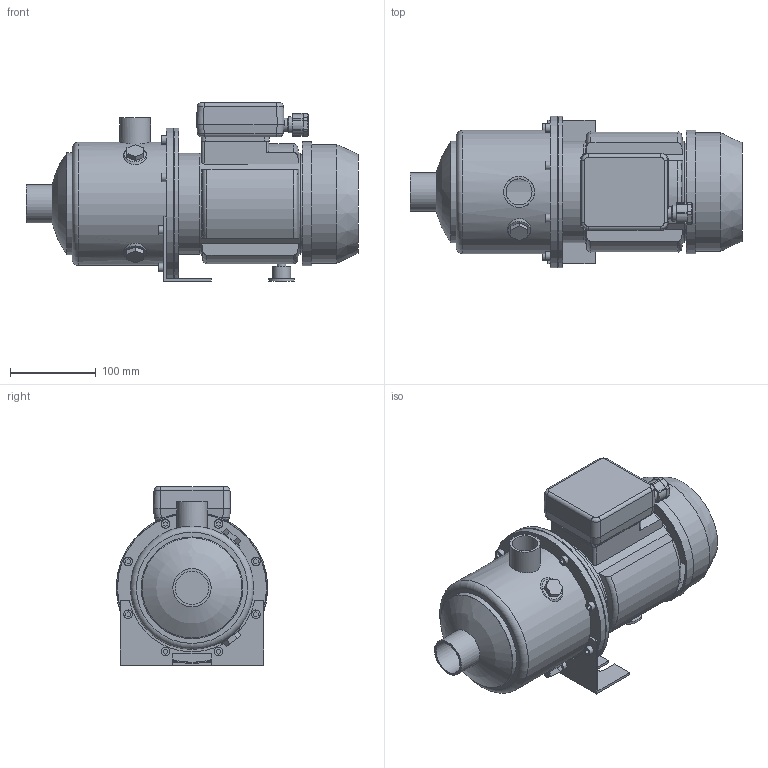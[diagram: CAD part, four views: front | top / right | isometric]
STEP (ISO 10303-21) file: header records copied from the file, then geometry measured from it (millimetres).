
FILE_DESCRIPTION(/* description */ ('Unknown'),/* implementation_level */ '2;1');
FILE_NAME(/* name */ 'MH 3 [4] T6 IE3',/* time_stamp */ '2026-07-10T15:09:30+02:00',/* author */ ('Unknown'),/* organization */ ('Unknown'),/* preprocessor_version */ 'ST-DEVELOPER v20',/* originating_system */ 'Solid Edge',/* authorisation */ 'Unknown');
FILE_SCHEMA (('AUTOMOTIVE_DESIGN {1 0 10303 214 3 1 1}'));
Length unit declared in the file: millimetre
Products named in the file (10): MH 3 [4] T6 IE3; Flangia motore Tonda M71; Corpo MH 3-5 [4]; Motore MEC 71 - T; carcassa MEC 71; Copriventola MEC 71; Basetta MEC 71 T; Ghiera PG13,5 cod. SAV.GHI.20; Piedino MEC 71 int.90; Staffa 3-5-9 int.90
Assembly tree (9 placements, depth 3):
  MH 3 [4] T6 IE3
    Flangia motore Tonda M71
    Corpo MH 3-5 [4]
    Motore MEC 71 - T
      carcassa MEC 71
      Copriventola MEC 71
      Basetta MEC 71 T
      Ghiera PG13,5 cod. SAV.GHI.20
    Piedino MEC 71 int.90
    Staffa 3-5-9 int.90
Bounding box: 386.6 x 176.5 x 207.5 mm (x, y, z)
Volume: 1785678.6 mm3; surface area: 499282.3 mm2
Topology: 8 solids, 8 shells, 316 faces, 750 edges, 497 vertices
Faces by surface type: plane 179, cylinder 100, cone 18, torus 9, bspline 8, sphere 2
Full cylindrical faces by diameter (mm): 7 x4, 10 x9, 13 x1, 15 x1, 18.6 x1, 19.73 x1, 21 x1, 30 x1, 30.291 x1, 36 x1, 38.952 x1, 44.5 x1, 110 x1, 114 x3, 116.1 x1, 118 x2, 118.5 x1, 133 x1, 138 x1, 139 x1, 141.1 x1, 143.5 x1, 144 x1, 173.5 x1, 174.1 x1, 176.5 x2
Entity records: 10381 total; most frequent: CARTESIAN_POINT 1885, DIRECTION 1485, ORIENTED_EDGE 1324, EDGE_CURVE 662, AXIS2_PLACEMENT_3D 551, VERTEX_POINT 468, EDGE_LOOP 432, FACE_BOUND 432
